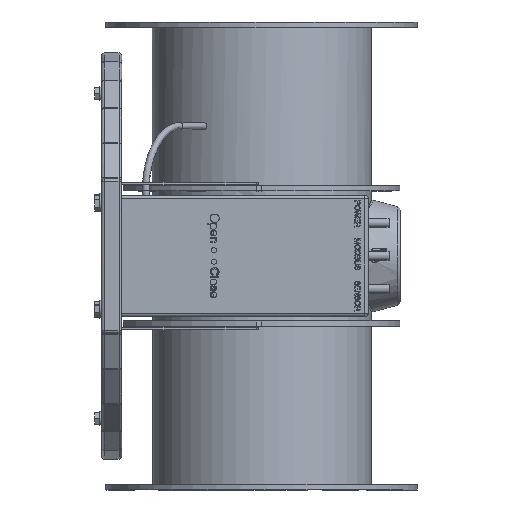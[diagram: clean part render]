
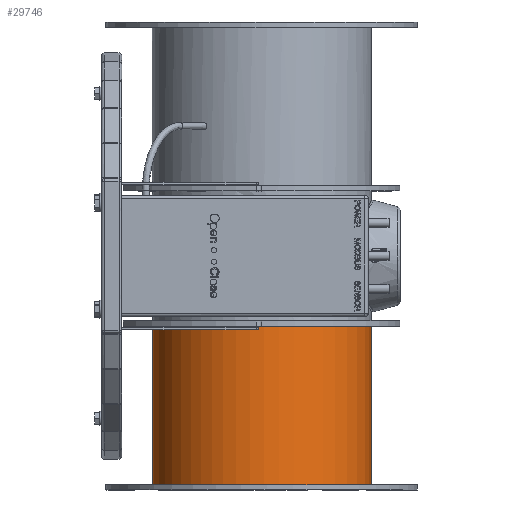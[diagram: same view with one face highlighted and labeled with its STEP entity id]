
A CAD part, front view. The second image highlights one B-rep face of the part: STEP entity #29746.
In plain terms, the highlighted free-form (B-spline) face has degree [2, 1] with [7, 2] control points.
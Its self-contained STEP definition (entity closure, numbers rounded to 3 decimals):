
#29382=CARTESIAN_POINT('',(63.15,0.,-132.));
#29383=VERTEX_POINT('',#29382);
#29384=CARTESIAN_POINT('',(63.15,0.,-132.));
#29385=CARTESIAN_POINT('',(63.15,-109.379,-132.));
#29386=CARTESIAN_POINT('',(-31.575,-54.69,-132.));
#29387=CARTESIAN_POINT('',(-126.3,0.,-132.));
#29388=CARTESIAN_POINT('',(-31.575,54.69,-132.));
#29389=CARTESIAN_POINT('',(63.15,109.379,-132.));
#29390=CARTESIAN_POINT('',(63.15,0.,-132.));
#29391=(BOUNDED_CURVE()B_SPLINE_CURVE(2,(#29384,#29385,#29386,#29387,#29388,#29389,#29390),.CIRCULAR_ARC.,.T.,.U.)B_SPLINE_CURVE_WITH_KNOTS((3,2,2,3),(0.,0.333,0.667,1.),.UNSPECIFIED.)CURVE()GEOMETRIC_REPRESENTATION_ITEM()RATIONAL_B_SPLINE_CURVE((1.,0.5,1.,0.5,1.,0.5,1.))REPRESENTATION_ITEM(''));
#29392=EDGE_CURVE('',#29383,#29383,#29391,.T.);
#29710=CARTESIAN_POINT('',(63.15,0.,-132.));
#29711=CARTESIAN_POINT('',(63.15,0.,135.));
#29712=CARTESIAN_POINT('',(63.15,109.379,-132.));
#29713=CARTESIAN_POINT('',(63.15,109.379,135.));
#29714=CARTESIAN_POINT('',(-31.575,54.69,-132.));
#29715=CARTESIAN_POINT('',(-31.575,54.69,135.));
#29716=CARTESIAN_POINT('',(-126.3,0.,-132.));
#29717=CARTESIAN_POINT('',(-126.3,0.,135.));
#29718=CARTESIAN_POINT('',(-31.575,-54.69,-132.));
#29719=CARTESIAN_POINT('',(-31.575,-54.69,135.));
#29720=CARTESIAN_POINT('',(63.15,-109.379,-132.));
#29721=CARTESIAN_POINT('',(63.15,-109.379,135.));
#29722=CARTESIAN_POINT('',(63.15,0.,-132.));
#29723=CARTESIAN_POINT('',(63.15,0.,135.));
#29724=(BOUNDED_SURFACE()B_SPLINE_SURFACE(2,1,((#29710,#29711),(#29712,#29713),(#29714,#29715),(#29716,#29717),(#29718,#29719),(#29720,#29721),(#29722,#29723)),.CYLINDRICAL_SURF.,.T.,.F.,.U.)B_SPLINE_SURFACE_WITH_KNOTS((3,2,2,3),(2,2),(0.,0.333,0.667,1.),(0.011,1.),.UNSPECIFIED.)GEOMETRIC_REPRESENTATION_ITEM()RATIONAL_B_SPLINE_SURFACE(((1.,1.),(0.5,0.5),(1.,1.),(0.5,0.5),(1.,1.),(0.5,0.5),(1.,1.)))REPRESENTATION_ITEM('')SURFACE());
#29725=ORIENTED_EDGE('',*,*,#29392,.F.);
#29726=CARTESIAN_POINT('',(63.15,0.,-40.5));
#29727=VERTEX_POINT('',#29726);
#29728=CARTESIAN_POINT('',(63.15,0.,-132.));
#29729=CARTESIAN_POINT('',(63.15,0.,-40.5));
#29730=B_SPLINE_CURVE_WITH_KNOTS('',1,(#29728,#29729),.POLYLINE_FORM.,.F.,.U.,(2,2),(0.011,0.35),.UNSPECIFIED.);
#29731=EDGE_CURVE('',#29383,#29727,#29730,.T.);
#29732=ORIENTED_EDGE('',*,*,#29731,.T.);
#29733=CARTESIAN_POINT('',(63.15,0.,-40.5));
#29734=CARTESIAN_POINT('',(63.15,-109.379,-40.5));
#29735=CARTESIAN_POINT('',(-31.575,-54.69,-40.5));
#29736=CARTESIAN_POINT('',(-126.3,0.,-40.5));
#29737=CARTESIAN_POINT('',(-31.575,54.69,-40.5));
#29738=CARTESIAN_POINT('',(63.15,109.379,-40.5));
#29739=CARTESIAN_POINT('',(63.15,0.,-40.5));
#29740=(BOUNDED_CURVE()B_SPLINE_CURVE(2,(#29733,#29734,#29735,#29736,#29737,#29738,#29739),.CIRCULAR_ARC.,.T.,.U.)B_SPLINE_CURVE_WITH_KNOTS((3,2,2,3),(0.,0.333,0.667,1.),.UNSPECIFIED.)CURVE()GEOMETRIC_REPRESENTATION_ITEM()RATIONAL_B_SPLINE_CURVE((1.,0.5,1.,0.5,1.,0.5,1.))REPRESENTATION_ITEM(''));
#29741=EDGE_CURVE('',#29727,#29727,#29740,.T.);
#29742=ORIENTED_EDGE('',*,*,#29741,.T.);
#29743=ORIENTED_EDGE('',*,*,#29731,.F.);
#29744=EDGE_LOOP('',(#29725,#29732,#29742,#29743));
#29745=FACE_OUTER_BOUND('',#29744,.T.);
#29746=ADVANCED_FACE('',(#29745),#29724,.T.);
